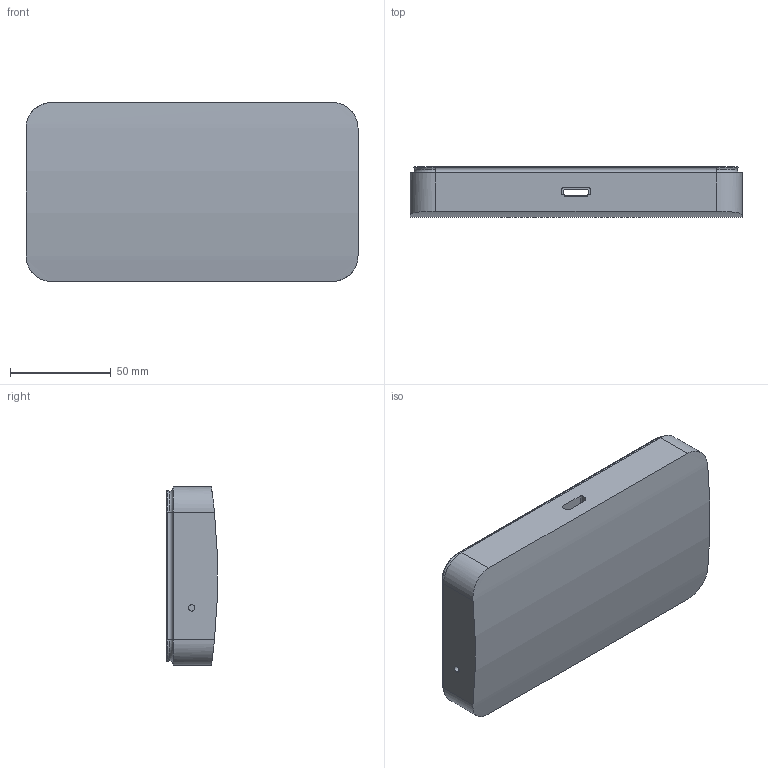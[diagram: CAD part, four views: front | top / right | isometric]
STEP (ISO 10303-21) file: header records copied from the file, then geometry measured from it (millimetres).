
FILE_DESCRIPTION (( 'STEP AP203' ), '1' );
FILE_NAME ('Phone MU.STEP', '2025-12-16T02:10:25', ( '' ), ( '' ), 'SwSTEP 2.0', 'SolidWorks 2024', '' );
FILE_SCHEMA (( 'CONFIG_CONTROL_DESIGN' ));
Length unit declared in the file: inch
Products named in the file (1): Phone MU
Bounding box: 165.1 x 25.22 x 88.9 mm (x, y, z)
Volume: 141877.6 mm3; surface area: 77159.6 mm2
Topology: 1 solids, 73 shells, 492 faces, 1008 edges, 663 vertices
Faces by surface type: plane 395, cylinder 85, torus 12
Entity records: 12846 total; most frequent: CARTESIAN_POINT 2260, DIRECTION 2177, ORIENTED_EDGE 2016, EDGE_CURVE 1008, VECTOR 817, LINE 817, AXIS2_PLACEMENT_3D 680, VERTEX_POINT 663
